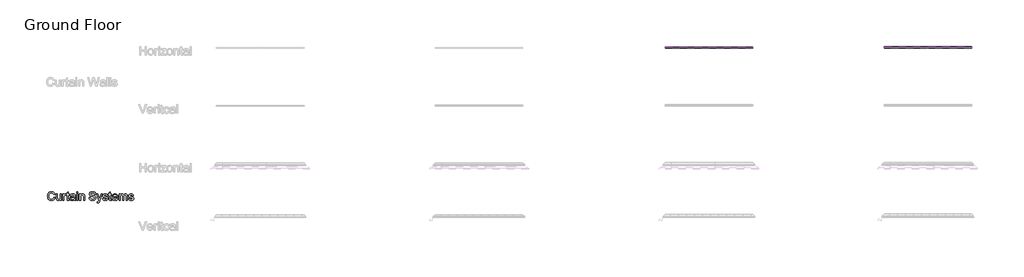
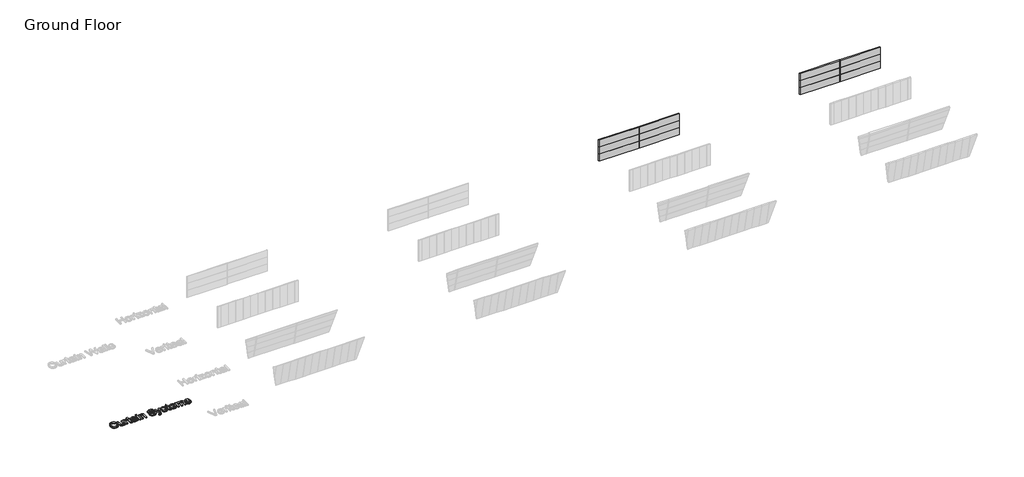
# One storey, part 3 of 9: 12 plates, 6 members, 1 proxy.
"""IFC4 building model written with IfcOpenShell, lengths in millimetres."""

from ifc_helpers import new_model, si_unit, origin, origin_with_axes, place, context, project, spatial, polyline, outline, extrude, transform, mapped, element, save
from components import rectangular_mullion_pi_mullion_20gap_50depth_70width_047f249b, system_panel_d6a3c3b5, system_panel_82508a70

model = new_model("IFC4")

# Units and contexts
model_context = context("Model", 3, world=origin())
ifc_project = project(units=[si_unit("LENGTHUNIT", "METRE", prefix="MILLI")], contexts=[model_context])

# Site, building, storey
site = spatial("IfcSite", under=ifc_project)
building = spatial("IfcBuilding", under=site)
storey = spatial("IfcBuildingStorey", under=building, Name="Ground Floor", Elevation=0.0)

# Proxy
placement = place(None, origin())
element("IfcBuildingElementProxy", 1, Name="1200mm Arial", ObjectType="1200mm Arial", at=placement, inside=storey, context=model_context, shape_type="SweptSolid", body=[
    extrude(outline(polyline([(-73278.3441207, -15688.8792454), (-73131.4350298, -15726.7542454), (-73160.5048096, -15818.1151296), (-73178.6577304, -15859.4714196), (-73199.2226718, -15897.9449414), (-73222.1996338, -15933.5356952), (-73247.5886164, -15966.2436808), (-73275.3896196, -15996.0688983), (-73305.6026434, -16023.0113477), (-73337.9004062, -16046.9185964), (-73371.9556264, -16067.638212), (-73407.7683039, -16085.1701945), (-73445.3384389, -16099.5145437), (-73484.6660312, -16110.6712598), (-73525.7510809, -16118.6403427), (-73568.593588, -16123.4217925), (-73613.1935525, -16125.0156091), (-73702.7790461, -16120.1915679), (-73783.595186, -16105.7194443), (-73855.6419722, -16081.5992383), (-73918.9194048, -16047.83095), (-73974.2972457, -16004.9167099), (-74022.645257, -15953.3586488), (-74063.9634389, -15893.1567667), (-74098.2517911, -15824.3110636), (-74125.1785489, -15749.7984571), (-74144.4119474, -15672.5958647), (-74155.9519864, -15592.7032866), (-74159.7986661, -15510.1207227), (-74155.4498558, -15421.5125906), (-74142.4034247, -15338.7506943), (-74120.6593728, -15261.8350338), (-74090.2177002, -15190.7656091), (-74051.75987, -15126.7170473), (-74005.9673451, -15070.8639755), (-73952.8401256, -15023.2063939), (-73892.3782116, -14983.7443022), (-73826.6349587, -14952.800499), (-73757.663723, -14930.6977823), (-73685.4645042, -14917.4361524), (-73610.0373025, -14913.0156091), (-73526.0111129, -14918.7363122), (-73448.9609531, -14935.8984216), (-73413.0518844, -14948.7700036), (-73378.8868231, -14964.5019372), (-73346.4657693, -14983.0942223), (-73315.788723, -15004.5468591), (-73287.115716, -15028.5953321), (-73260.7067805, -15054.9751261), (-73236.5619163, -15083.6862412), (-73214.6811235, -15114.7286772), (-73177.7117521, -15183.8075125), (-73149.7986661, -15262.2116318), (-73296.707757, -15297.2173136), (-73319.8416349, -15239.4453853), (-73347.6381548, -15190.084146), (-73380.0973167, -15149.1335956), (-73417.2191207, -15116.5937341), (-73459.2187656, -15091.8010316), (-73506.3114502, -15074.0919585), (-73558.4971747, -15063.4665146), (-73615.7759389, -15059.9247), (-73681.6805908, -15063.8520792), (-73741.9542059, -15075.634217), (-73796.596784, -15095.2711133), (-73845.6083252, -15122.7627681), (-73888.3701328, -15156.871788), (-73924.2635099, -15196.3607795), (-73953.2884566, -15241.2297426), (-73975.444973, -15291.4786772), (-73991.8269864, -15344.8300622), (-74003.5284247, -15399.0063761), (-74010.5492876, -15454.007619), (-74012.8895752, -15509.8337909), (-74010.1188899, -15579.9886204), (-74001.8068337, -15645.5525409), (-73987.9534069, -15706.5255522), (-73968.5586093, -15762.9076545), (-73943.3086093, -15813.5780203), (-73911.8895752, -15857.4158221), (-73874.301507, -15894.42106), (-73830.5444048, -15924.5937341), (-73782.7433572, -15948.0055771), (-73733.0234531, -15964.7283221), (-73681.3846924, -15974.7619691), (-73627.8270752, -15978.1065181), (-73563.9578458, -15973.5514755), (-73505.1995894, -15959.8863477), (-73451.552306, -15937.1111346), (-73403.0159957, -15905.2258363), (-73360.7383856, -15864.3739187), (-73325.8672031, -15814.6988477), (-73298.4024481, -15756.2006233), (-73278.3441207, -15688.8792454)])), origin_with_axes(), (0.0, 0.0, 1.0), 150.0),
    extrude(outline(polyline([(-72396.8895752, -16106.6519727), (-72396.8895752, -15958.3082227), (-72422.3727073, -15997.3802664), (-72450.0436945, -16031.2427042), (-72479.9025369, -16059.8955363), (-72511.9492343, -16083.3387625), (-72546.1837869, -16101.5723828), (-72582.6061945, -16114.5963974), (-72621.2164573, -16122.4108061), (-72662.0145752, -16125.0156091), (-72698.410083, -16123.1864187), (-72733.5681974, -16117.6988477), (-72767.4889183, -16108.552896), (-72800.1722457, -16095.7485636), (-72830.1745539, -16080.1825125), (-72856.0522173, -16062.7514045), (-72877.8052357, -16043.4552397), (-72895.4336093, -16022.2940181), (-72909.8429666, -15998.9628747), (-72921.938936, -15973.1569443), (-72939.1907116, -15914.1207227), (-72945.6466775, -15858.45595), (-72947.7986661, -15777.5411772), (-72947.7986661, -15243.5610636), (-72800.8895752, -15243.5610636), (-72800.8895752, -15708.3906091), (-72798.6658536, -15801.3565181), (-72791.9946889, -15858.1690181), (-72783.1984353, -15884.647445), (-72770.5824019, -15908.131021), (-72754.1465887, -15928.6197461), (-72733.8909957, -15946.1136204), (-72710.4253529, -15960.1105132), (-72684.3593906, -15970.1082937), (-72655.6931086, -15976.106962), (-72624.426507, -15978.1065181), (-72592.2273771, -15976.0621289), (-72561.0504417, -15969.9289613), (-72530.8957009, -15959.7070153), (-72501.7631548, -15945.3962909), (-72475.2309282, -15927.561685), (-72452.8771462, -15906.7680948), (-72434.7018089, -15883.0155203), (-72420.7049161, -15856.3039613), (-72410.2857045, -15824.9297603), (-72402.8434105, -15787.1892596), (-72398.378034, -15743.0824592), (-72396.8895752, -15692.6093591), (-72396.8895752, -15243.5610636), (-72249.9804843, -15243.5610636), (-72249.9804843, -16106.6519727), (-72396.8895752, -16106.6519727)])), origin_with_axes(), (0.0, 0.0, 1.0), 150.0),
    extrude(outline(polyline([(-72047.9804843, -16106.6519727), (-72047.9804843, -15243.5610636), (-71919.4350298, -15243.5610636), (-71919.4350298, -15371.2457227), (-71895.2251576, -15330.4296716), (-71871.9478139, -15297.2173136), (-71849.6029985, -15271.6086488), (-71828.1907116, -15253.6036772), (-71806.7425582, -15241.1759429), (-71784.2901434, -15232.2989897), (-71760.8334673, -15226.9728179), (-71736.3725298, -15225.1974272), (-71699.9321889, -15228.0308789), (-71663.2049161, -15236.5312341), (-71626.1907116, -15250.6984926), (-71588.8895752, -15270.5326545), (-71637.9549161, -15402.2343591), (-71663.7787798, -15389.0534287), (-71689.6026434, -15379.6384784), (-71715.426507, -15373.9895082), (-71741.2503707, -15372.1065181), (-71763.7655518, -15373.9177752), (-71785.1150724, -15379.3515466), (-71805.2989325, -15388.4078321), (-71824.317132, -15401.0866318), (-71841.4523416, -15416.9754812), (-71855.9872315, -15435.6619159), (-71867.9218018, -15457.1459358), (-71877.2560525, -15481.4275409), (-71887.6752641, -15521.5262625), (-71895.1175582, -15563.4900409), (-71901.0713934, -15653.0127681), (-71901.0713934, -16106.6519727), (-72047.9804843, -16106.6519727)])), origin_with_axes(), (0.0, 0.0, 1.0), 150.0),
    extrude(outline(polyline([(-71184.8895752, -15984.1320863), (-71166.5259389, -16110.95595), (-71224.701365, -16121.5006943), (-71276.4208252, -16125.0156091), (-71313.9192272, -16123.4912838), (-71346.9343195, -16118.9183079), (-71375.4661022, -16111.2966815), (-71399.5145752, -16100.6264045), (-71419.7074019, -16087.4813406), (-71436.6722457, -16072.4353534), (-71450.4091065, -16055.4884429), (-71460.9179843, -16036.6406091), (-71468.7010099, -16011.3726758), (-71474.2603139, -15975.165467), (-71478.707757, -15869.9332227), (-71478.707757, -15390.4701545), (-71588.8895752, -15390.4701545), (-71588.8895752, -15243.5610636), (-71478.707757, -15243.5610636), (-71478.707757, -15033.8139045), (-71331.7986661, -14947.4474272), (-71331.7986661, -15243.5610636), (-71184.8895752, -15243.5610636), (-71184.8895752, -15390.4701545), (-71331.7986661, -15390.4701545), (-71331.7986661, -15865.6292454), (-71329.8618764, -15913.9772568), (-71324.051507, -15941.3792454), (-71313.901294, -15956.5507653), (-71298.944973, -15968.2073704), (-71277.7478849, -15975.6317312), (-71248.8753707, -15978.1065181), (-71184.8895752, -15984.1320863)])), origin_with_axes(), (0.0, 0.0, 1.0), 150.0),
    extrude(outline(polyline([(-70487.0713934, -15996.4701545), (-70521.9067095, -16029.1624485), (-70557.2620894, -16056.6541034), (-70593.1375333, -16078.945119), (-70629.5330411, -16096.0354954), (-70666.8610774, -16108.7142951), (-70705.5341065, -16117.7705806), (-70745.5521285, -16123.2043519), (-70786.9151434, -16125.0156091), (-70852.3266313, -16120.6578321), (-70909.6860951, -16107.5845011), (-70958.9935347, -16085.7956162), (-71000.2489502, -16055.2911772), (-71032.8246782, -16018.0079741), (-71056.0930553, -15975.8827966), (-71070.0540816, -15928.9156446), (-71074.707757, -15877.1065181), (-71072.9502997, -15845.9564826), (-71067.6779275, -15816.2052397), (-71058.8906406, -15787.8527894), (-71046.5884389, -15760.8991318), (-71031.4258856, -15735.9360636), (-71014.057544, -15713.5553818), (-70994.483414, -15693.7570863), (-70972.7034957, -15676.5411772), (-70924.104419, -15648.565325), (-70869.8384389, -15628.3366318), (-70816.9712514, -15617.0745579), (-70742.7276434, -15606.2428818), (-70592.5188366, -15583.0014045), (-70534.5227428, -15569.8742738), (-70487.9321889, -15555.7428818), (-70487.0713934, -15523.0326545), (-70489.5999801, -15487.4172426), (-70497.18574, -15457.4687341), (-70509.8286732, -15433.1871289), (-70527.5287798, -15414.5724272), (-70558.1228849, -15395.993592), (-70595.3881548, -15382.7229954), (-70639.3245894, -15374.7606375), (-70689.9321889, -15372.1065181), (-70736.989007, -15373.8729421), (-70777.4463934, -15379.1722142), (-70811.304348, -15388.0043342), (-70838.5628707, -15400.3693022), (-70860.9614857, -15417.2355132), (-70880.2397173, -15439.5713619), (-70896.3975653, -15467.3768484), (-70909.4350298, -15500.6519727), (-71056.3441207, -15482.2883363), (-71045.1627464, -15439.9658931), (-71030.8430553, -15401.9474272), (-71013.3850475, -15368.2329386), (-70992.788723, -15338.8224272), (-70968.1663863, -15313.1240963), (-70938.6303423, -15290.5461488), (-70904.1805908, -15271.0885849), (-70864.817132, -15254.7514045), (-70821.337995, -15241.8215394), (-70774.5412087, -15232.5859216), (-70724.4267734, -15227.0445508), (-70670.9946889, -15225.1974272), (-70618.7641313, -15226.8293519), (-70571.6804133, -15231.7251261), (-70529.7435347, -15239.8847497), (-70492.9534957, -15251.3082227), (-70461.005431, -15265.197516), (-70433.5944758, -15280.7546005), (-70410.7206299, -15297.9794762), (-70392.3838934, -15316.8721431), (-70377.5172386, -15337.8988654), (-70365.0536377, -15361.5259073), (-70347.335598, -15416.58095), (-70341.9556264, -15467.3678818), (-70340.1623025, -15545.1264045), (-70340.1623025, -15727.9019727), (-70338.2972457, -15887.1132653), (-70332.7020752, -15983.127825), (-70321.6552002, -16046.2169585), (-70303.4350298, -16106.6519727), (-70450.3441207, -16106.6519727), (-70463.3995184, -16082.1193022), (-70473.8725298, -16055.5781091), (-70487.0713934, -15996.4701545)]), holes=[polyline([(-70487.0713934, -15702.6519727), (-70531.4740923, -15715.3666389), (-70585.7759389, -15727.1129102), (-70724.0770752, -15747.7002681), (-70800.2933394, -15758.962342), (-70850.4705411, -15771.5156091), (-70883.3601008, -15787.7989897), (-70907.7134389, -15810.2514045), (-70922.7773593, -15837.1512625), (-70927.7986661, -15866.7769727), (-70925.0638472, -15889.6059855), (-70916.8593906, -15910.462342), (-70903.1852961, -15929.3460423), (-70884.0415639, -15946.2570863), (-70859.6075262, -15960.1912127), (-70830.0625156, -15970.1441602), (-70795.4065319, -15976.1159287), (-70755.6395752, -15978.1065181), (-70715.038723, -15975.9096964), (-70676.7333252, -15969.3192312), (-70640.723382, -15958.3351225), (-70607.0088934, -15942.9573704), (-70576.5941207, -15924.4592348), (-70550.4833252, -15904.1139755), (-70528.676507, -15881.9215927), (-70511.1736661, -15857.8820863), (-70501.0055198, -15836.3622), (-70493.7425582, -15810.2514045), (-70489.3847812, -15779.5497), (-70487.9321889, -15744.2570863), (-70487.0713934, -15702.6519727)])]), origin_with_axes(), (0.0, 0.0, 1.0), 150.0),
    extrude(outline(polyline([(-70138.1623025, -16106.6519727), (-70138.1623025, -15243.5610636), (-69991.2532116, -15243.5610636), (-69991.2532116, -16106.6519727), (-70138.1623025, -16106.6519727)])), origin_with_axes(), (0.0, 0.0, 1.0), 150.0),
    extrude(outline(polyline([(-70138.1623025, -15078.2883363), (-70138.1623025, -14931.3792454), (-69991.2532116, -14931.3792454), (-69991.2532116, -15078.2883363), (-70138.1623025, -15078.2883363)])), origin_with_axes(), (0.0, 0.0, 1.0), 150.0),
    extrude(outline(polyline([(-69770.8895752, -16106.6519727), (-69770.8895752, -15243.5610636), (-69623.9804843, -15243.5610636), (-69623.9804843, -15364.0724272), (-69599.7437123, -15331.5235991), (-69572.9424872, -15303.3146147), (-69543.5768089, -15279.4454741), (-69511.6466775, -15259.9161772), (-69477.152093, -15244.7267241), (-69440.0930553, -15233.8771147), (-69400.4695646, -15227.3673491), (-69358.2816207, -15225.1974272), (-69321.3122492, -15226.945918), (-69285.8672031, -15232.1913903), (-69251.9464822, -15240.9338441), (-69219.5500866, -15253.1732795), (-69189.9064431, -15268.2551332), (-69164.2439786, -15285.524842), (-69142.5626931, -15304.9824059), (-69124.8625866, -15326.627825), (-69098.142061, -15376.3746289), (-69080.8185525, -15434.6576545), (-69075.0081832, -15490.3941602), (-69073.0713934, -15576.6889045), (-69073.0713934, -16106.6519727), (-69219.9804843, -16106.6519727), (-69219.9804843, -15596.4872), (-69224.2127286, -15520.5220011), (-69229.503034, -15490.7707582), (-69236.9094616, -15466.5070863), (-69246.9969083, -15446.0721609), (-69260.3302712, -15427.8071573), (-69276.9095504, -15411.7120757), (-69296.7347457, -15397.7869159), (-69319.1243941, -15386.5517419), (-69343.3970326, -15378.5266176), (-69369.5526612, -15373.711543), (-69397.5912798, -15372.1065181), (-69442.2002109, -15375.7110991), (-69483.6349587, -15386.524842), (-69521.8955234, -15404.5477468), (-69556.9819048, -15429.7798136), (-69572.6846969, -15445.8166122), (-69586.2937833, -15465.0903605), (-69597.8091642, -15487.6010583), (-69607.2308394, -15513.3487056), (-69619.7930731, -15574.5548491), (-69623.9804843, -15648.7087909), (-69623.9804843, -16106.6519727), (-69770.8895752, -16106.6519727)])), origin_with_axes(), (0.0, 0.0, 1.0), 150.0),
    extrude(outline(polyline([(-68448.707757, -15702.6519727), (-68301.7986661, -15702.6519727), (-68295.0737016, -15745.4137802), (-68284.9414218, -15784.1764755), (-68271.4018266, -15818.9400586), (-68254.4549161, -15849.7045295), (-68233.2398948, -15877.0885849), (-68206.8959673, -15901.7109216), (-68175.4231335, -15923.5715394), (-68138.8213934, -15942.6704386), (-68098.43574, -15958.1737234), (-68055.6111661, -15969.2474983), (-68010.3476718, -15975.8917632), (-67962.645257, -15978.1065181), (-67920.4483465, -15976.4297603), (-67880.7979559, -15971.3994869), (-67843.6940852, -15963.0156978), (-67809.1367343, -15951.2783931), (-67777.9777322, -15936.6090039), (-67751.0689076, -15919.4289613), (-67728.4102606, -15899.7382653), (-67710.0017911, -15877.5369159), (-67695.753833, -15853.7843413), (-67685.5767201, -15829.4399698), (-67679.4704524, -15804.5038015), (-67677.4350298, -15778.9758363), (-67678.9593551, -15753.5554706), (-67683.5323309, -15729.802896), (-67691.1539573, -15707.7181126), (-67701.8242343, -15687.3011204), (-67717.2109531, -15668.44432), (-67738.9819048, -15651.0401119), (-67767.1370894, -15635.0884961), (-67801.676507, -15620.5894727), (-67879.2556974, -15597.5273278), (-68015.5841775, -15564.4943022), (-68156.001436, -15527.3724983), (-68207.2456654, -15509.4840927), (-68245.8469616, -15492.0440181), (-68285.0759211, -15468.6411417), (-68318.9787087, -15442.6200125), (-68347.5553245, -15413.9806304), (-68370.8057684, -15382.7229954), (-68388.8197066, -15349.1699059), (-68401.6868053, -15313.6441602), (-68409.4070646, -15276.1457582), (-68411.9804843, -15236.6747), (-68408.7973345, -15192.9265643), (-68399.2478849, -15150.631021), (-68383.3321356, -15109.78807), (-68361.0500866, -15070.3977113), (-68332.6528032, -15034.0649698), (-68298.3913508, -15002.3948704), (-68258.2657293, -14975.387413), (-68212.2759389, -14953.0425977), (-68161.9732045, -14935.5307902), (-68108.9087514, -14923.0223562), (-68053.0825795, -14915.5172958), (-67994.4946889, -14913.0156091), (-67930.5806264, -14915.6338619), (-67870.5401434, -14923.4886204), (-67814.37324, -14936.5798846), (-67762.0799161, -14954.9076545), (-67714.6285667, -14978.3105309), (-67672.9875866, -15006.6271147), (-67637.1569758, -15039.8574059), (-67607.1367343, -15078.0014045), (-67583.1599943, -15119.9472497), (-67565.4598877, -15164.5830806), (-67554.0364147, -15211.9088974), (-67548.8895752, -15261.9247), (-67695.7986661, -15261.9247), (-67705.6260809, -15215.0472142), (-67722.770257, -15174.2670295), (-67747.2311945, -15139.584146), (-67779.0088934, -15110.9985636), (-67818.6951505, -15088.6537483), (-67866.8817627, -15072.6931659), (-67923.5687301, -15063.1168164), (-67988.7560525, -15059.9247), (-68056.0236306, -15063.08095), (-68113.4996605, -15072.5497), (-68161.184142, -15088.33095), (-68199.0770752, -15110.4247), (-68227.9495894, -15136.9838264), (-68248.5728139, -15166.1612056), (-68260.9467485, -15197.9568377), (-68265.0713934, -15232.3707227), (-68262.1482755, -15261.9784997), (-68253.3789218, -15288.8245579), (-68238.7633323, -15312.9088974), (-68218.301507, -15334.2315181), (-68186.0934105, -15354.4243448), (-68135.3782116, -15374.8323704), (-68066.1559105, -15395.4555948), (-67978.426507, -15416.2940181), (-67816.4534957, -15455.6754102), (-67759.4616633, -15473.4831162), (-67718.4662798, -15490.0354954), (-67673.4269509, -15515.1240963), (-67634.7180553, -15543.3330806), (-67602.339593, -15574.6624485), (-67576.2915639, -15609.1122), (-67556.2691029, -15646.5030025), (-67541.9673451, -15686.6555238), (-67533.3862904, -15729.5697639), (-67530.5259389, -15775.2457227), (-67533.8166881, -15821.1996467), (-67543.688936, -15865.8085778), (-67560.1426825, -15909.072516), (-67583.1779275, -15950.9914613), (-67612.3911732, -15989.9424556), (-67647.3789218, -16024.3025409), (-67688.1411732, -16054.071717), (-67734.6779275, -16079.2499841), (-67785.6352251, -16099.272445), (-67839.6591065, -16113.5742028), (-67896.7495717, -16122.1552575), (-67956.9066207, -16125.0156091), (-68032.0558572, -16121.931092), (-68100.838794, -16112.6775409), (-68163.255431, -16097.2549556), (-68219.3057684, -16075.6633363), (-68269.3305376, -16047.8668164), (-68313.6704701, -16013.8295295), (-68352.325566, -15973.5514755), (-68385.2958252, -15927.0326545), (-68411.8549516, -15875.7794585), (-68431.2766491, -15821.2982795), (-68443.5609176, -15763.5891176), (-68448.707757, -15702.6519727)])), origin_with_axes(), (0.0, 0.0, 1.0), 150.0),
    extrude(outline(polyline([(-67328.5259389, -16437.1974272), (-67346.8895752, -16295.7400409), (-67306.8625866, -16305.4239897), (-67272.2873025, -16308.6519727), (-67233.0493764, -16304.5990608), (-67202.5628707, -16292.440325), (-67178.8192627, -16273.0365608), (-67159.8100298, -16247.2485636), (-67143.598382, -16209.3018306), (-67119.6395752, -16139.0752681), (-67108.1623025, -16103.4957227), (-67420.3441207, -15243.5610636), (-67265.4009389, -15243.5610636), (-67099.8412798, -15722.7372), (-67069.3547741, -15816.2769727), (-67042.1679843, -15914.4076545), (-66984.4946889, -15745.1178818), (-66814.3441207, -15243.5610636), (-66660.5486661, -15243.5610636), (-66960.9662798, -16127.3110636), (-67005.5841775, -16244.8096431), (-67039.0117343, -16318.9815181), (-67058.3258323, -16351.9248775), (-67078.96699, -16380.1697284), (-67100.9352073, -16403.7160707), (-67124.2304843, -16422.5639045), (-67149.3549516, -16437.0001616), (-67176.81074, -16447.3117738), (-67206.5978494, -16453.4987412), (-67238.7162798, -16455.5610636), (-67281.2539218, -16450.9701545), (-67328.5259389, -16437.1974272)])), origin_with_axes(), (0.0, 0.0, 1.0), 150.0),
    extrude(outline(polyline([(-66593.9804843, -15849.5610636), (-66447.0713934, -15831.1974272), (-66438.1944403, -15864.696717), (-66423.9016491, -15894.0354954), (-66404.1930198, -15919.2137625), (-66379.0685525, -15940.2315181), (-66348.4565141, -15956.8018306), (-66312.2851718, -15968.6377681), (-66270.5545255, -15975.7393306), (-66223.2645752, -15978.1065181), (-66176.0284247, -15975.9365963), (-66135.319973, -15969.4268306), (-66101.1392201, -15958.5772213), (-66073.4861661, -15943.3877681), (-66052.1456122, -15925.2751971), (-66036.9023593, -15905.6562341), (-66027.7564076, -15884.5308789), (-66024.707757, -15861.8991318), (-66027.7743408, -15842.0649698), (-66036.9740923, -15824.4545295), (-66052.3070113, -15809.0678108), (-66073.773098, -15795.9048136), (-66128.7922741, -15777.2542454), (-66224.9861661, -15754.0127681), (-66359.0550582, -15715.2411062), (-66446.210598, -15682.1363477), (-66476.1322066, -15665.5391353), (-66502.198169, -15646.0188051), (-66524.408485, -15623.5753569), (-66542.7631548, -15598.2087909), (-66557.1366455, -15570.6812696), (-66567.4034247, -15541.7549556), (-66573.5634921, -15511.4298491), (-66575.616848, -15479.70595), (-66573.96699, -15450.6989365), (-66569.0174161, -15422.7858505), (-66560.7681264, -15395.9666921), (-66549.2191207, -15370.2414613), (-66534.8187301, -15346.130222), (-66518.0152855, -15324.153038), (-66498.8087869, -15304.3099095), (-66477.1992343, -15286.6008363), (-66436.6342485, -15262.9648278), (-66383.8029275, -15243.1306659), (-66322.7223167, -15229.6807369), (-66257.4094616, -15225.1974272), (-66208.0392556, -15226.9997177), (-66161.7894332, -15232.4065892), (-66118.6599943, -15241.4180416), (-66078.6509389, -15254.034075), (-66042.7127286, -15269.7256588), (-66011.7958252, -15287.9637625), (-65985.9002286, -15308.748386), (-65965.0259389, -15332.0795295), (-65948.0969616, -15358.7731552), (-65934.0373025, -15389.6452255), (-65922.8469616, -15424.6957404), (-65914.5259389, -15463.9247), (-66061.4350298, -15482.2883363), (-66068.4379595, -15457.7466993), (-66079.9779985, -15436.0564471), (-66096.055147, -15417.2175799), (-66116.6694048, -15401.2300977), (-66141.9104381, -15388.4885316), (-66171.8679133, -15379.387413), (-66206.5418302, -15373.9267419), (-66245.9321889, -15372.1065181), (-66291.6260809, -15373.8460423), (-66330.2901434, -15379.0646147), (-66361.9243764, -15387.7622355), (-66386.5287798, -15399.9389045), (-66404.9820823, -15414.4289613), (-66418.1630127, -15430.0667454), (-66426.071571, -15446.8522568), (-66428.707757, -15464.7854954), (-66424.3320468, -15487.3813761), (-66411.2049161, -15507.5383363), (-66388.7525014, -15525.5433079), (-66356.4009389, -15539.9616318), (-66229.864007, -15571.2372), (-66100.0632258, -15609.6143306), (-66014.2347457, -15640.3877681), (-65984.0351718, -15655.3978889), (-65957.2787798, -15673.4566602), (-65933.9655695, -15694.5640821), (-65914.0955411, -15718.7201545), (-65898.2156583, -15745.960744), (-65886.8728849, -15776.321717), (-65880.0672208, -15809.8030735), (-65877.7986661, -15846.4048136), (-65880.4617521, -15883.1679528), (-65888.4510099, -15918.8550977), (-65901.7664396, -15953.4662483), (-65920.4080411, -15987.0014045), (-65944.0709495, -16018.1245402), (-65972.4502997, -16045.4996289), (-66005.5460916, -16069.1266708), (-66043.3583252, -16089.0056659), (-66084.8558394, -16104.760016), (-66129.007473, -16116.0131233), (-66175.8132258, -16122.7649876), (-66225.273098, -16125.0156091), (-66304.3407471, -16120.6757653), (-66373.4016491, -16107.6562341), (-66432.4558039, -16085.9570153), (-66481.5032116, -16055.5781091), (-66521.5660667, -16016.6629812), (-66553.6665639, -15969.3550977), (-66577.8047031, -15913.6544585), (-66593.9804843, -15849.5610636)])), origin_with_axes(), (0.0, 0.0, 1.0), 150.0),
    extrude(outline(polyline([(-65400.3441207, -15984.1320863), (-65381.9804843, -16110.95595), (-65440.1559105, -16121.5006943), (-65491.8753707, -16125.0156091), (-65529.3737727, -16123.4912838), (-65562.388865, -16118.9183079), (-65590.9206477, -16111.2966815), (-65614.9691207, -16100.6264045), (-65635.1619474, -16087.4813406), (-65652.1267911, -16072.4353534), (-65665.8636519, -16055.4884429), (-65676.3725298, -16036.6406091), (-65684.1555553, -16011.3726758), (-65689.7148593, -15975.165467), (-65694.1623025, -15869.9332227), (-65694.1623025, -15390.4701545), (-65804.3441207, -15390.4701545), (-65804.3441207, -15243.5610636), (-65694.1623025, -15243.5610636), (-65694.1623025, -15033.8139045), (-65547.2532116, -14947.4474272), (-65547.2532116, -15243.5610636), (-65400.3441207, -15243.5610636), (-65400.3441207, -15390.4701545), (-65547.2532116, -15390.4701545), (-65547.2532116, -15865.6292454), (-65545.3164218, -15913.9772568), (-65539.5060525, -15941.3792454), (-65529.3558394, -15956.5507653), (-65514.3995184, -15968.2073704), (-65493.2024303, -15975.6317312), (-65464.3299161, -15978.1065181), (-65400.3441207, -15984.1320863)])), origin_with_axes(), (0.0, 0.0, 1.0), 150.0),
    extrude(outline(polyline([(-64649.1566207, -15849.5610636), (-64505.116848, -15867.9247), (-64527.2016313, -15925.6159287), (-64557.0156406, -15976.4566602), (-64594.5588756, -16020.4468946), (-64639.8313366, -16057.5866318), (-64692.3667592, -16087.0868093), (-64751.6988792, -16108.1583647), (-64817.8276967, -16120.801298), (-64890.7532116, -16125.0156091), (-64937.5724144, -16123.197627), (-64981.9078636, -16117.7436808), (-65023.7595592, -16108.6537705), (-65063.1275014, -16095.927896), (-65100.0116899, -16079.5660574), (-65134.4121249, -16059.5682546), (-65166.3288064, -16035.9344878), (-65195.7617343, -16008.6647568), (-65222.1908448, -15978.1132431), (-65245.0960738, -15944.6341282), (-65264.4774215, -15908.2274121), (-65280.3348877, -15868.8930948), (-65292.6684726, -15826.6311763), (-65301.4781761, -15781.4416566), (-65306.7639982, -15733.3245357), (-65308.5259389, -15682.2798136), (-65306.7460649, -15629.497809), (-65301.4064431, -15579.7554883), (-65292.5070734, -15533.0528516), (-65280.0479559, -15489.3898988), (-65264.0290905, -15448.76663), (-65244.4504772, -15411.1830451), (-65221.3121161, -15376.6391442), (-65194.614007, -15345.1349272), (-65165.077963, -15317.0245757), (-65133.4257968, -15292.662271), (-65099.6575085, -15272.0480132), (-65063.773098, -15255.1818022), (-65025.7725653, -15242.0636382), (-64985.6559105, -15232.693521), (-64943.4231335, -15227.0714507), (-64899.0742343, -15225.1974272), (-64856.1756858, -15227.0669674), (-64815.2811768, -15232.6755877), (-64776.3907071, -15242.0232884), (-64739.5042769, -15255.1100693), (-64704.6218861, -15271.9359304), (-64671.7435347, -15292.5008718), (-64640.8692228, -15316.8048935), (-64611.9989502, -15344.8479954), (-64585.8724632, -15376.2804794), (-64563.2295078, -15410.7526474), (-64544.0700839, -15448.2644993), (-64528.3941917, -15488.8160352), (-64516.2018311, -15532.407255), (-64507.4930021, -15579.0381588), (-64502.2677047, -15628.7087465), (-64500.5259389, -15681.4190181), (-64501.3867343, -15721.0156091), (-65161.616848, -15721.0156091), (-65153.1075262, -15779.6393662), (-65136.1875156, -15830.9822284), (-65110.856816, -15875.0441957), (-65077.1154275, -15911.8252681), (-65036.8284069, -15940.823315), (-64991.860811, -15961.5362056), (-64942.2126399, -15973.96394), (-64887.8838934, -15978.1065181), (-64847.2471747, -15976.1876616), (-64809.694973, -15970.431092), (-64775.2272883, -15960.8368093), (-64743.8441207, -15947.4048136), (-64715.5454701, -15929.77644), (-64690.3313366, -15907.5930238), (-64668.2017201, -15880.854565), (-64649.1566207, -15849.5610636)]), holes=[polyline([(-65161.616848, -15574.1065181), (-64647.4350298, -15574.1065181), (-64654.9849232, -15532.537271), (-64667.3050582, -15496.4914613), (-64684.3954346, -15465.9690892), (-64706.2560525, -15440.9701545), (-64746.3189076, -15410.8423136), (-64791.9052002, -15389.3224272), (-64843.0149303, -15376.4104954), (-64899.648098, -15372.1065181), (-64951.3047918, -15375.5407333), (-64998.6754417, -15385.8433789), (-65041.7600475, -15403.0144549), (-65080.5586093, -15427.0539613), (-65113.1164041, -15456.8500373), (-65137.4787087, -15491.2908221), (-65153.6455234, -15530.3763157), (-65161.616848, -15574.1065181)])]), origin_with_axes(), (0.0, 0.0, 1.0), 150.0),
    extrude(outline(polyline([(-64353.616848, -16106.6519727), (-64353.616848, -15243.5610636), (-64206.707757, -15243.5610636), (-64206.707757, -15385.5923136), (-64186.192132, -15351.2053285), (-64162.520257, -15320.3511914), (-64135.692132, -15293.0299024), (-64105.707757, -15269.2414613), (-64073.0513295, -15249.9721964), (-64038.2070468, -15236.2084358), (-64001.174909, -15227.9501794), (-63961.9549161, -15225.1974272), (-63919.0765426, -15228.0039791), (-63880.2510809, -15236.4236346), (-63845.4785312, -15250.4563939), (-63814.7588934, -15270.1022568), (-63788.1818337, -15294.805293), (-63765.8370184, -15324.0095721), (-63747.7244474, -15357.7150941), (-63733.8441207, -15395.9218591), (-63708.0112904, -15355.9083203), (-63680.2954701, -15321.2299201), (-63650.6966597, -15291.8866584), (-63619.2148593, -15267.8785352), (-63585.8500688, -15249.2055505), (-63550.6022883, -15235.8677042), (-63513.4715177, -15227.8649965), (-63474.457757, -15225.1974272), (-63415.6457009, -15229.6359038), (-63364.0248735, -15242.9513335), (-63319.5952748, -15265.1437163), (-63282.3569048, -15296.2130522), (-63252.9194935, -15336.5180061), (-63231.8927712, -15386.4172426), (-63219.2767379, -15445.9107618), (-63215.0713934, -15514.9985636), (-63215.0713934, -16106.6519727), (-63361.9804843, -16106.6519727), (-63361.9804843, -15578.1235636), (-63365.3877997, -15504.8483505), (-63375.6097457, -15455.4602113), (-63383.8052357, -15437.6435387), (-63394.7624445, -15421.6381233), (-63408.4813721, -15407.4439649), (-63424.9620184, -15395.0610636), (-63443.60362, -15385.01845), (-63463.8054133, -15377.8451545), (-63508.8895752, -15372.1065181), (-63550.5215887, -15375.7828321), (-63588.4772883, -15386.8117738), (-63622.7566739, -15405.1933434), (-63653.3597457, -15430.9275409), (-63678.5290461, -15464.7675622), (-63696.5071178, -15507.4666034), (-63707.2939609, -15559.0246644), (-63710.8895752, -15619.4417454), (-63710.8895752, -16106.6519727), (-63857.7986661, -16106.6519727), (-63857.7986661, -15561.76845), (-63859.9237549, -15517.2581517), (-63866.2990212, -15478.7016886), (-63876.9244651, -15446.0990608), (-63891.8000866, -15419.4502681), (-63911.5176825, -15398.7373775), (-63936.6690497, -15383.9424556), (-63967.2541881, -15375.0655025), (-64003.273098, -15372.1065181), (-64032.1276789, -15374.0791744), (-64059.8703991, -15379.9971431), (-64086.5012585, -15389.8604244), (-64112.020257, -15403.6690181), (-64135.2617343, -15421.2794585), (-64155.0600298, -15442.5482795), (-64171.4151434, -15467.4754812), (-64184.3270752, -15496.0610636), (-64194.1186235, -15529.8293519), (-64201.1125866, -15570.3046716), (-64206.707757, -15671.3764045), (-64206.707757, -16106.6519727), (-64353.616848, -16106.6519727)])), origin_with_axes(), (0.0, 0.0, 1.0), 150.0),
    extrude(outline(polyline([(-63049.7986661, -15849.5610636), (-62902.8895752, -15831.1974272), (-62894.0126221, -15864.696717), (-62879.7198309, -15894.0354954), (-62860.0112016, -15919.2137625), (-62834.8867343, -15940.2315181), (-62804.274696, -15956.8018306), (-62768.1033536, -15968.6377681), (-62726.3727073, -15975.7393306), (-62679.082757, -15978.1065181), (-62631.8466065, -15975.9365963), (-62591.1381548, -15969.4268306), (-62556.9574019, -15958.5772213), (-62529.304348, -15943.3877681), (-62507.963794, -15925.2751971), (-62492.7205411, -15905.6562341), (-62483.5745894, -15884.5308789), (-62480.5259389, -15861.8991318), (-62483.5925227, -15842.0649698), (-62492.7922741, -15824.4545295), (-62508.1251931, -15809.0678108), (-62529.5912798, -15795.9048136), (-62584.6104559, -15777.2542454), (-62680.804348, -15754.0127681), (-62814.87324, -15715.2411062), (-62902.0287798, -15682.1363477), (-62931.9503884, -15665.5391353), (-62958.0163508, -15646.0188051), (-62980.2266668, -15623.5753569), (-62998.5813366, -15598.2087909), (-63012.9548274, -15570.6812696), (-63023.2216065, -15541.7549556), (-63029.3816739, -15511.4298491), (-63031.4350298, -15479.70595), (-63029.7851718, -15450.6989365), (-63024.835598, -15422.7858505), (-63016.5863082, -15395.9666921), (-63005.0373025, -15370.2414613), (-62990.6369119, -15346.130222), (-62973.8334673, -15324.153038), (-62954.6269687, -15304.3099095), (-62933.0174161, -15286.6008363), (-62892.4524303, -15262.9648278), (-62839.6211093, -15243.1306659), (-62778.5404985, -15229.6807369), (-62713.2276434, -15225.1974272), (-62663.8574374, -15226.9997177), (-62617.607615, -15232.4065892), (-62574.4781761, -15241.4180416), (-62534.4691207, -15254.034075), (-62498.5309105, -15269.7256588), (-62467.614007, -15287.9637625), (-62441.7184105, -15308.748386), (-62420.8441207, -15332.0795295), (-62403.9151434, -15358.7731552), (-62389.8554843, -15389.6452255), (-62378.6651434, -15424.6957404), (-62370.3441207, -15463.9247), (-62517.2532116, -15482.2883363), (-62524.2561413, -15457.7466993), (-62535.7961803, -15436.0564471), (-62551.8733288, -15417.2175799), (-62572.4875866, -15401.2300977), (-62597.72862, -15388.4885316), (-62627.6860951, -15379.387413), (-62662.360012, -15373.9267419), (-62701.7503707, -15372.1065181), (-62747.4442627, -15373.8460423), (-62786.1083252, -15379.0646147), (-62817.7425582, -15387.7622355), (-62842.3469616, -15399.9389045), (-62860.8002641, -15414.4289613), (-62873.9811945, -15430.0667454), (-62881.8897528, -15446.8522568), (-62884.5259389, -15464.7854954), (-62880.1502286, -15487.3813761), (-62867.023098, -15507.5383363), (-62844.5706832, -15525.5433079), (-62812.2191207, -15539.9616318), (-62685.6821889, -15571.2372), (-62555.8814076, -15609.6143306), (-62470.0529275, -15640.3877681), (-62439.8533536, -15655.3978889), (-62413.0969616, -15673.4566602), (-62389.7837514, -15694.5640821), (-62369.913723, -15718.7201545), (-62354.0338401, -15745.960744), (-62342.6910667, -15776.321717), (-62335.8854026, -15809.8030735), (-62333.616848, -15846.4048136), (-62336.2799339, -15883.1679528), (-62344.2691917, -15918.8550977), (-62357.5846214, -15953.4662483), (-62376.226223, -15987.0014045), (-62399.8891313, -16018.1245402), (-62428.2684815, -16045.4996289), (-62461.3642734, -16069.1266708), (-62499.176507, -16089.0056659), (-62540.6740212, -16104.760016), (-62584.8256548, -16116.0131233), (-62631.6314076, -16122.7649876), (-62681.0912798, -16125.0156091), (-62760.1589289, -16120.6757653), (-62829.2198309, -16107.6562341), (-62888.2739857, -16085.9570153), (-62937.3213934, -16055.5781091), (-62977.3842485, -16016.6629812), (-63009.4847457, -15969.3550977), (-63033.6228849, -15913.6544585), (-63049.7986661, -15849.5610636)])), origin_with_axes(), (0.0, 0.0, 1.0), 150.0),
])

# Members
rectangular_mullion_pi_mullion_20gap_50depth_70width_shape = rectangular_mullion_pi_mullion_20gap_50depth_70width_047f249b(model_context)
element("IfcMember", 2, ObjectType="Rectangular Mullion : PI-Mullion - 20Gap-50Depth-70Width", at=placement, inside=storey, context=model_context, shape_type="MappedRepresentation", body=[
    mapped(rectangular_mullion_pi_mullion_20gap_50depth_70width_shape, transform((16502.466571, 4766.6714822, 0.0), x_axis=(1.0, 0.0, 0.0), y_axis=(0.0, -1.0, 0.0), z_axis=(0.0, 0.0, -1.0))),
])
element("IfcMember", 3, ObjectType="Rectangular Mullion : PI-Mullion - 20Gap-50Depth-70Width", at=placement, inside=storey, context=model_context, shape_type="MappedRepresentation", body=[
    mapped(rectangular_mullion_pi_mullion_20gap_50depth_70width_shape, transform((46502.466571, 4766.6714822, 0.0), x_axis=(1.0, 0.0, 0.0), y_axis=(0.0, -1.0, 0.0), z_axis=(0.0, 0.0, -1.0))),
])
element("IfcMember", 4, ObjectType="Rectangular Mullion : PI-Mullion - 20Gap-50Depth-70Width", at=placement, inside=storey, context=model_context, shape_type="MappedRepresentation", body=[
    mapped(rectangular_mullion_pi_mullion_20gap_50depth_70width_shape, transform((16502.466571, 4766.6714822, 1100.0), x_axis=(1.0, 0.0, 0.0), y_axis=(0.0, -1.0, 0.0), z_axis=(0.0, 0.0, -1.0))),
])
element("IfcMember", 5, ObjectType="Rectangular Mullion : PI-Mullion - 20Gap-50Depth-70Width", at=placement, inside=storey, context=model_context, shape_type="MappedRepresentation", body=[
    mapped(rectangular_mullion_pi_mullion_20gap_50depth_70width_shape, transform((46502.466571, 4766.6714822, 1100.0), x_axis=(1.0, 0.0, 0.0), y_axis=(0.0, -1.0, 0.0), z_axis=(0.0, 0.0, -1.0))),
])
element("IfcMember", 6, ObjectType="Rectangular Mullion : PI-Mullion - 20Gap-50Depth-70Width", at=placement, inside=storey, context=model_context, shape_type="MappedRepresentation", body=[
    mapped(rectangular_mullion_pi_mullion_20gap_50depth_70width_shape, transform((16502.466571, 4766.6714822, 2200.0), x_axis=(1.0, 0.0, 0.0), y_axis=(0.0, -1.0, 0.0), z_axis=(0.0, 0.0, -1.0))),
])
element("IfcMember", 7, ObjectType="Rectangular Mullion : PI-Mullion - 20Gap-50Depth-70Width", at=placement, inside=storey, context=model_context, shape_type="MappedRepresentation", body=[
    mapped(rectangular_mullion_pi_mullion_20gap_50depth_70width_shape, transform((46502.466571, 4766.6714822, 2200.0), x_axis=(1.0, 0.0, 0.0), y_axis=(0.0, -1.0, 0.0), z_axis=(0.0, 0.0, -1.0))),
])

# Plates
system_panel_shape = system_panel_d6a3c3b5(model_context)
element("IfcPlate", 8, ObjectType="System Panel : MetecnoPanel 200mm Horizontal - Plain Astro - PIR", at=placement, inside=storey, context=model_context, shape_type="MappedRepresentation", body=[
    mapped(system_panel_shape, transform((43497.466571, 4766.6714822, 0.0), x_axis=(1.0, 0.0, 0.0), y_axis=(0.0, 1.0, 0.0), z_axis=(0.0, 0.0, 1.0))),
])
element("IfcPlate", 9, ObjectType="System Panel : MetecnoPanel 200mm Horizontal - Plain Astro - PIR", at=placement, inside=storey, context=model_context, shape_type="MappedRepresentation", body=[
    mapped(system_panel_shape, transform((49507.466571, 4766.6714822, 0.0), x_axis=(1.0, 0.0, 0.0), y_axis=(0.0, 1.0, 0.0), z_axis=(0.0, 0.0, 1.0))),
])
element("IfcPlate", 10, ObjectType="System Panel : MetecnoPanel 200mm Horizontal - Plain Astro - PIR", at=placement, inside=storey, context=model_context, shape_type="MappedRepresentation", body=[
    mapped(system_panel_shape, transform((43497.466571, 4766.6714822, 1100.0), x_axis=(1.0, 0.0, 0.0), y_axis=(0.0, 1.0, 0.0), z_axis=(0.0, 0.0, 1.0))),
])
element("IfcPlate", 11, ObjectType="System Panel : MetecnoPanel 200mm Horizontal - Plain Astro - PIR", at=placement, inside=storey, context=model_context, shape_type="MappedRepresentation", body=[
    mapped(system_panel_shape, transform((49507.466571, 4766.6714822, 1100.0), x_axis=(1.0, 0.0, 0.0), y_axis=(0.0, 1.0, 0.0), z_axis=(0.0, 0.0, 1.0))),
])
element("IfcPlate", 12, ObjectType="System Panel : MetecnoPanel 200mm Horizontal - Plain Astro - PIR", at=placement, inside=storey, context=model_context, shape_type="MappedRepresentation", body=[
    mapped(system_panel_shape, transform((43497.466571, 4766.6714822, 2200.0), x_axis=(1.0, 0.0, 0.0), y_axis=(0.0, 1.0, 0.0), z_axis=(0.0, 0.0, 1.0))),
])
element("IfcPlate", 13, ObjectType="System Panel : MetecnoPanel 200mm Horizontal - Plain Astro - PIR", at=placement, inside=storey, context=model_context, shape_type="MappedRepresentation", body=[
    mapped(system_panel_shape, transform((49507.466571, 4766.6714822, 2200.0), x_axis=(1.0, 0.0, 0.0), y_axis=(0.0, 1.0, 0.0), z_axis=(0.0, 0.0, 1.0))),
])
system_panel_2_shape = system_panel_82508a70(model_context)
element("IfcPlate", 14, ObjectType="System Panel : MetecnoPanel 150mm Horizontal - Plain Astro - PIR", at=placement, inside=storey, context=model_context, shape_type="MappedRepresentation", body=[
    mapped(system_panel_2_shape, transform((13497.466571, 4766.6714822, 0.0), x_axis=(1.0, 0.0, 0.0), y_axis=(0.0, 1.0, 0.0), z_axis=(0.0, 0.0, 1.0))),
])
element("IfcPlate", 15, ObjectType="System Panel : MetecnoPanel 150mm Horizontal - Plain Astro - PIR", at=placement, inside=storey, context=model_context, shape_type="MappedRepresentation", body=[
    mapped(system_panel_2_shape, transform((19507.466571, 4766.6714822, 0.0), x_axis=(1.0, 0.0, 0.0), y_axis=(0.0, 1.0, 0.0), z_axis=(0.0, 0.0, 1.0))),
])
element("IfcPlate", 16, ObjectType="System Panel : MetecnoPanel 150mm Horizontal - Plain Astro - PIR", at=placement, inside=storey, context=model_context, shape_type="MappedRepresentation", body=[
    mapped(system_panel_2_shape, transform((13497.466571, 4766.6714822, 1100.0), x_axis=(1.0, 0.0, 0.0), y_axis=(0.0, 1.0, 0.0), z_axis=(0.0, 0.0, 1.0))),
])
element("IfcPlate", 17, ObjectType="System Panel : MetecnoPanel 150mm Horizontal - Plain Astro - PIR", at=placement, inside=storey, context=model_context, shape_type="MappedRepresentation", body=[
    mapped(system_panel_2_shape, transform((19507.466571, 4766.6714822, 1100.0), x_axis=(1.0, 0.0, 0.0), y_axis=(0.0, 1.0, 0.0), z_axis=(0.0, 0.0, 1.0))),
])
element("IfcPlate", 18, ObjectType="System Panel : MetecnoPanel 150mm Horizontal - Plain Astro - PIR", at=placement, inside=storey, context=model_context, shape_type="MappedRepresentation", body=[
    mapped(system_panel_2_shape, transform((13497.466571, 4766.6714822, 2200.0), x_axis=(1.0, 0.0, 0.0), y_axis=(0.0, 1.0, 0.0), z_axis=(0.0, 0.0, 1.0))),
])
element("IfcPlate", 19, ObjectType="System Panel : MetecnoPanel 150mm Horizontal - Plain Astro - PIR", at=placement, inside=storey, context=model_context, shape_type="MappedRepresentation", body=[
    mapped(system_panel_2_shape, transform((19507.466571, 4766.6714822, 2200.0), x_axis=(1.0, 0.0, 0.0), y_axis=(0.0, 1.0, 0.0), z_axis=(0.0, 0.0, 1.0))),
])

save(model, "model.ifc")
